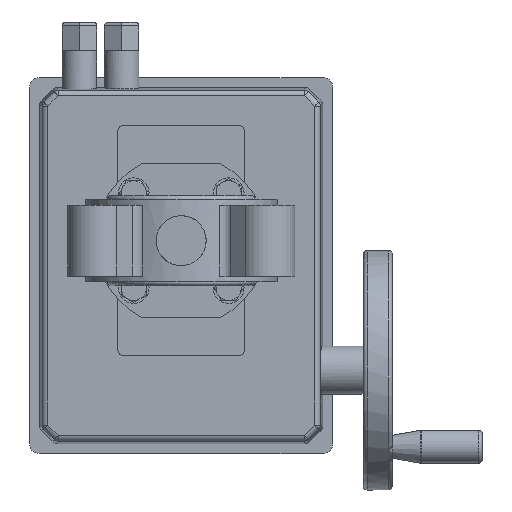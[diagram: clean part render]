
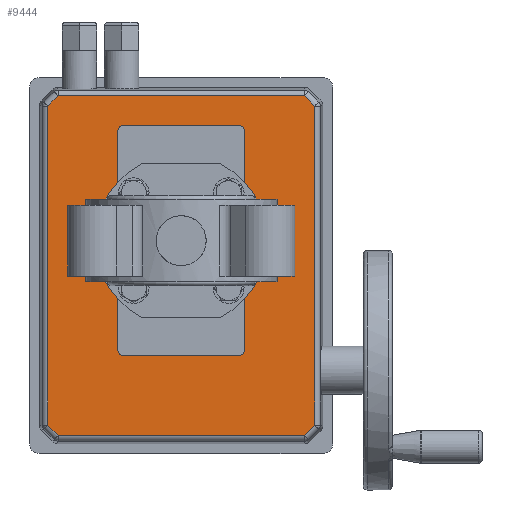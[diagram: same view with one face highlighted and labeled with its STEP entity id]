
A CAD part, front view. The second image highlights one B-rep face of the part: STEP entity #9444.
In plain terms, the highlighted planar face has unit normal (0, -1, 0).
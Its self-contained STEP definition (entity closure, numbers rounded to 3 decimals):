
#362 = AXIS2_PLACEMENT_3D ( 'NONE', #20832, #6454, #14863 ) ;
#483 = CARTESIAN_POINT ( 'NONE',  ( 82.84, -45., 82.84 ) ) ;
#630 = ORIENTED_EDGE ( 'NONE', *, *, #19163, .T. ) ;
#661 = CARTESIAN_POINT ( 'NONE',  ( 96.149, -45., -69.531 ) ) ;
#680 = VECTOR ( 'NONE', #19658, 1000. ) ;
#890 = CARTESIAN_POINT ( 'NONE',  ( 82.84, -45., -82.84 ) ) ;
#957 = DIRECTION ( 'NONE',  ( 0., 0., 1. ) ) ;
#1268 = EDGE_CURVE ( 'NONE', #24211, #1771, #8438, .T. ) ;
#1395 = VERTEX_POINT ( 'NONE', #10904 ) ;
#1423 = EDGE_CURVE ( 'NONE', #1771, #9448, #13941, .T. ) ;
#1435 = CARTESIAN_POINT ( 'NONE',  ( 60., -45., 30. ) ) ;
#1771 = VERTEX_POINT ( 'NONE', #12884 ) ;
#2039 = ORIENTED_EDGE ( 'NONE', *, *, #22071, .T. ) ;
#2066 = CARTESIAN_POINT ( 'NONE',  ( 0., -45., -69.531 ) ) ;
#2564 = FACE_BOUND ( 'NONE', #16330, .T. ) ;
#2693 = CARTESIAN_POINT ( 'NONE',  ( 57., -45., -33. ) ) ;
#2818 = PLANE ( 'NONE',  #6359 ) ;
#2864 = DIRECTION ( 'NONE',  ( 0., 0., 1. ) ) ;
#3002 = CARTESIAN_POINT ( 'NONE',  ( -57., -45., -30. ) ) ;
#3006 = CARTESIAN_POINT ( 'NONE',  ( -71.349, -45., 69.531 ) ) ;
#3455 = DIRECTION ( 'NONE',  ( 0.707, 0., 0.707 ) ) ;
#3746 = VERTEX_POINT ( 'NONE', #22302 ) ;
#3753 = VECTOR ( 'NONE', #25804, 1000. ) ;
#4473 = FACE_OUTER_BOUND ( 'NONE', #25302, .T. ) ;
#4645 = EDGE_CURVE ( 'NONE', #12166, #1395, #16030, .T. ) ;
#5100 = VECTOR ( 'NONE', #10921, 1000. ) ;
#5192 = DIRECTION ( 'NONE',  ( 0., 1., 0. ) ) ;
#5360 = LINE ( 'NONE', #25824, #26782 ) ;
#5377 = EDGE_CURVE ( 'NONE', #6627, #7149, #26197, .T. ) ;
#5636 = CARTESIAN_POINT ( 'NONE',  ( -60., -45., -30. ) ) ;
#5944 = ORIENTED_EDGE ( 'NONE', *, *, #13075, .T. ) ;
#6131 = VECTOR ( 'NONE', #3455, 1000. ) ;
#6157 = EDGE_CURVE ( 'NONE', #16555, #17792, #25498, .T. ) ;
#6359 = AXIS2_PLACEMENT_3D ( 'NONE', #18984, #9103, #25362 ) ;
#6415 = ORIENTED_EDGE ( 'NONE', *, *, #24552, .T. ) ;
#6454 = DIRECTION ( 'NONE',  ( 0., 1., 0. ) ) ;
#6627 = VERTEX_POINT ( 'NONE', #11689 ) ;
#6665 = CARTESIAN_POINT ( 'NONE',  ( 57., -45., -30. ) ) ;
#6833 = CARTESIAN_POINT ( 'NONE',  ( -60., -45., 0. ) ) ;
#6893 = ORIENTED_EDGE ( 'NONE', *, *, #14413, .F. ) ;
#7149 = VERTEX_POINT ( 'NONE', #24765 ) ;
#7309 = CARTESIAN_POINT ( 'NONE',  ( -57., -45., -33. ) ) ;
#7603 = ORIENTED_EDGE ( 'NONE', *, *, #15130, .F. ) ;
#7977 = VECTOR ( 'NONE', #23383, 1000. ) ;
#8438 = LINE ( 'NONE', #16698, #12193 ) ;
#8549 = VECTOR ( 'NONE', #12774, 1000. ) ;
#8610 = ORIENTED_EDGE ( 'NONE', *, *, #5377, .T. ) ;
#8718 = DIRECTION ( 'NONE',  ( 0., 0., -1. ) ) ;
#9103 = DIRECTION ( 'NONE',  ( 0., 1., 0. ) ) ;
#9140 = EDGE_CURVE ( 'NONE', #26101, #24211, #10233, .T. ) ;
#9209 = ORIENTED_EDGE ( 'NONE', *, *, #17590, .T. ) ;
#9257 = DIRECTION ( 'NONE',  ( 0., 0., 1. ) ) ;
#9444 = ADVANCED_FACE ( 'NONE', ( #4473, #2564 ), #2818, .F. ) ;
#9448 = VERTEX_POINT ( 'NONE', #2693 ) ;
#9742 = ORIENTED_EDGE ( 'NONE', *, *, #13612, .T. ) ;
#10161 = CARTESIAN_POINT ( 'NONE',  ( 101.531, -45., 64.149 ) ) ;
#10233 = CIRCLE ( 'NONE', #18857, 3. ) ;
#10393 = EDGE_CURVE ( 'NONE', #18485, #19416, #17470, .T. ) ;
#10397 = VERTEX_POINT ( 'NONE', #7309 ) ;
#10400 = CARTESIAN_POINT ( 'NONE',  ( -75.531, -45., -64.149 ) ) ;
#10541 = VECTOR ( 'NONE', #20373, 1000. ) ;
#10904 = CARTESIAN_POINT ( 'NONE',  ( -70.149, -45., -69.531 ) ) ;
#10921 = DIRECTION ( 'NONE',  ( 1., 0., 0. ) ) ;
#11689 = CARTESIAN_POINT ( 'NONE',  ( 96.149, -45., 69.531 ) ) ;
#12166 = VERTEX_POINT ( 'NONE', #10400 ) ;
#12193 = VECTOR ( 'NONE', #8718, 1000. ) ;
#12774 = DIRECTION ( 'NONE',  ( 0., 0., -1. ) ) ;
#12843 = LINE ( 'NONE', #483, #16891 ) ;
#12884 = CARTESIAN_POINT ( 'NONE',  ( 60., -45., -30. ) ) ;
#12911 = ORIENTED_EDGE ( 'NONE', *, *, #18925, .T. ) ;
#13075 = EDGE_CURVE ( 'NONE', #7149, #3746, #5360, .T. ) ;
#13210 = DIRECTION ( 'NONE',  ( -0.707, 0., -0.707 ) ) ;
#13612 = EDGE_CURVE ( 'NONE', #10397, #20647, #23080, .T. ) ;
#13941 = CIRCLE ( 'NONE', #22198, 3. ) ;
#13980 = CARTESIAN_POINT ( 'NONE',  ( -69.84, -45., -69.84 ) ) ;
#14111 = DIRECTION ( 'NONE',  ( 1., 0., 0. ) ) ;
#14413 = EDGE_CURVE ( 'NONE', #10397, #9448, #26198, .T. ) ;
#14708 = VERTEX_POINT ( 'NONE', #661 ) ;
#14863 = DIRECTION ( 'NONE',  ( 0., 0., 1. ) ) ;
#15038 = ORIENTED_EDGE ( 'NONE', *, *, #1268, .T. ) ;
#15130 = EDGE_CURVE ( 'NONE', #16555, #20647, #23110, .T. ) ;
#15832 = ORIENTED_EDGE ( 'NONE', *, *, #10393, .T. ) ;
#16030 = LINE ( 'NONE', #13980, #10541 ) ;
#16033 = CARTESIAN_POINT ( 'NONE',  ( 0., -45., -33. ) ) ;
#16330 = EDGE_LOOP ( 'NONE', ( #7603, #22915, #9209, #19248, #15038, #20809, #6893, #9742 ) ) ;
#16555 = VERTEX_POINT ( 'NONE', #19377 ) ;
#16698 = CARTESIAN_POINT ( 'NONE',  ( 60., -45., 0. ) ) ;
#16891 = VECTOR ( 'NONE', #19217, 1000. ) ;
#17215 = CARTESIAN_POINT ( 'NONE',  ( 101.531, -45., -64.149 ) ) ;
#17470 = LINE ( 'NONE', #25496, #680 ) ;
#17590 = EDGE_CURVE ( 'NONE', #17792, #26101, #17862, .T. ) ;
#17792 = VERTEX_POINT ( 'NONE', #20970 ) ;
#17862 = LINE ( 'NONE', #19385, #25971 ) ;
#18485 = VERTEX_POINT ( 'NONE', #17215 ) ;
#18603 = CARTESIAN_POINT ( 'NONE',  ( -75.531, -45., -65.349 ) ) ;
#18722 = AXIS2_PLACEMENT_3D ( 'NONE', #3002, #21338, #2864 ) ;
#18857 = AXIS2_PLACEMENT_3D ( 'NONE', #23369, #21465, #9257 ) ;
#18925 = EDGE_CURVE ( 'NONE', #19416, #6627, #12843, .T. ) ;
#18984 = CARTESIAN_POINT ( 'NONE',  ( 0., -45., 0. ) ) ;
#19163 = EDGE_CURVE ( 'NONE', #14708, #18485, #21801, .T. ) ;
#19217 = DIRECTION ( 'NONE',  ( -0.707, 0., 0.707 ) ) ;
#19248 = ORIENTED_EDGE ( 'NONE', *, *, #9140, .T. ) ;
#19377 = CARTESIAN_POINT ( 'NONE',  ( -60., -45., 30. ) ) ;
#19385 = CARTESIAN_POINT ( 'NONE',  ( 0., -45., 33. ) ) ;
#19416 = VERTEX_POINT ( 'NONE', #10161 ) ;
#19658 = DIRECTION ( 'NONE',  ( 0., 0., 1. ) ) ;
#20373 = DIRECTION ( 'NONE',  ( 0.707, 0., -0.707 ) ) ;
#20647 = VERTEX_POINT ( 'NONE', #5636 ) ;
#20809 = ORIENTED_EDGE ( 'NONE', *, *, #1423, .T. ) ;
#20832 = CARTESIAN_POINT ( 'NONE',  ( -57., -45., 30. ) ) ;
#20970 = CARTESIAN_POINT ( 'NONE',  ( -57., -45., 33. ) ) ;
#21338 = DIRECTION ( 'NONE',  ( 0., 1., 0. ) ) ;
#21465 = DIRECTION ( 'NONE',  ( 0., 1., 0. ) ) ;
#21801 = LINE ( 'NONE', #890, #6131 ) ;
#21808 = VECTOR ( 'NONE', #14111, 1000. ) ;
#22071 = EDGE_CURVE ( 'NONE', #1395, #14708, #22697, .T. ) ;
#22198 = AXIS2_PLACEMENT_3D ( 'NONE', #6665, #5192, #957 ) ;
#22302 = CARTESIAN_POINT ( 'NONE',  ( -75.531, -45., 64.149 ) ) ;
#22697 = LINE ( 'NONE', #2066, #5100 ) ;
#22915 = ORIENTED_EDGE ( 'NONE', *, *, #6157, .T. ) ;
#23080 = CIRCLE ( 'NONE', #18722, 3. ) ;
#23110 = LINE ( 'NONE', #6833, #7977 ) ;
#23369 = CARTESIAN_POINT ( 'NONE',  ( 57., -45., 30. ) ) ;
#23383 = DIRECTION ( 'NONE',  ( 0., 0., -1. ) ) ;
#23582 = DIRECTION ( 'NONE',  ( 1., 0., 0. ) ) ;
#24211 = VERTEX_POINT ( 'NONE', #1435 ) ;
#24552 = EDGE_CURVE ( 'NONE', #3746, #12166, #25128, .T. ) ;
#24765 = CARTESIAN_POINT ( 'NONE',  ( -70.149, -45., 69.531 ) ) ;
#25128 = LINE ( 'NONE', #18603, #8549 ) ;
#25265 = CARTESIAN_POINT ( 'NONE',  ( 57., -45., 33. ) ) ;
#25302 = EDGE_LOOP ( 'NONE', ( #6415, #26803, #2039, #630, #15832, #12911, #8610, #5944 ) ) ;
#25362 = DIRECTION ( 'NONE',  ( 0., 0., 1. ) ) ;
#25496 = CARTESIAN_POINT ( 'NONE',  ( 101.531, -45., 0. ) ) ;
#25498 = CIRCLE ( 'NONE', #362, 3. ) ;
#25804 = DIRECTION ( 'NONE',  ( -1., 0., 0. ) ) ;
#25824 = CARTESIAN_POINT ( 'NONE',  ( -76.38, -45., 63.301 ) ) ;
#25971 = VECTOR ( 'NONE', #23582, 1000. ) ;
#26101 = VERTEX_POINT ( 'NONE', #25265 ) ;
#26197 = LINE ( 'NONE', #3006, #3753 ) ;
#26198 = LINE ( 'NONE', #16033, #21808 ) ;
#26782 = VECTOR ( 'NONE', #13210, 1000. ) ;
#26803 = ORIENTED_EDGE ( 'NONE', *, *, #4645, .T. ) ;
